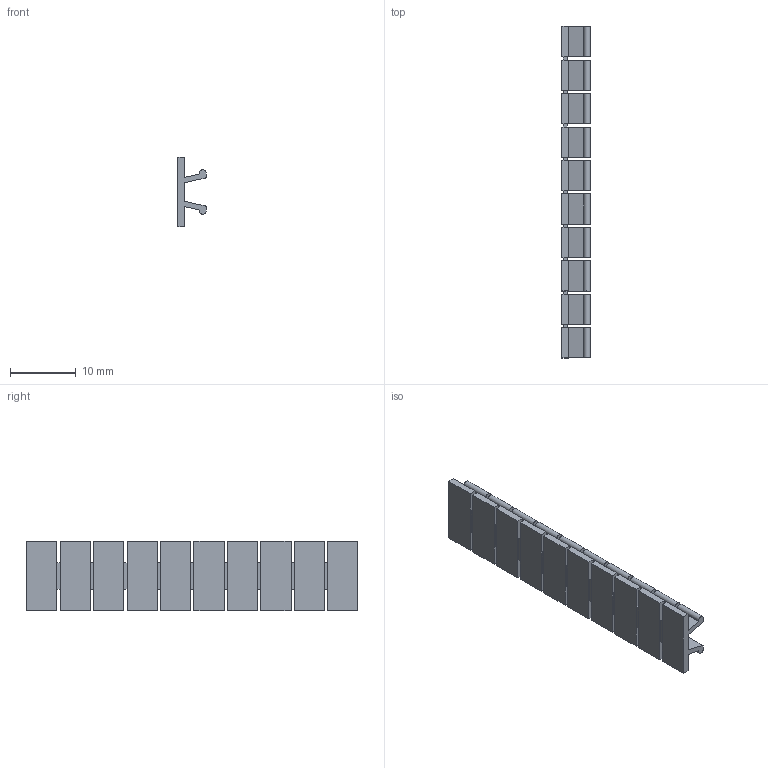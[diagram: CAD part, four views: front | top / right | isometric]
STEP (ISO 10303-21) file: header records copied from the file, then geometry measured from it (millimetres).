
FILE_DESCRIPTION( ('This file contains a STEP AP42 implementation' ,'as created by ZW3D STEP Interface translator.') ,'2;1' );
FILE_NAME( 'ZB5梓暮沭.stp' ,'23 615.174822', (''), ('ZWCAD Software Co.'), 'Version 1.0', 'ZW3D to STEP translator', '' );
FILE_SCHEMA(('AUTOMOTIVE_DESIGN { 1 0 10303 214 1 1 1 1 }'));
Length unit declared in the file: millimetre
Products named in the file (2): 0; ZB5梓暮沭
Bounding box: 4.3 x 50.6 x 10.6 mm (x, y, z)
Volume: 788.1 mm3; surface area: 2081.1 mm2
Topology: 1 solids, 1 shells, 236 faces, 648 edges, 432 vertices
Faces by surface type: plane 196, cylinder 40
Entity records: 7678 total; most frequent: CARTESIAN_POINT 1317, ORIENTED_EDGE 1296, DIRECTION 1202, EDGE_CURVE 648, VECTOR 568, LINE 568, VERTEX_POINT 432, AXIS2_PLACEMENT_3D 317
